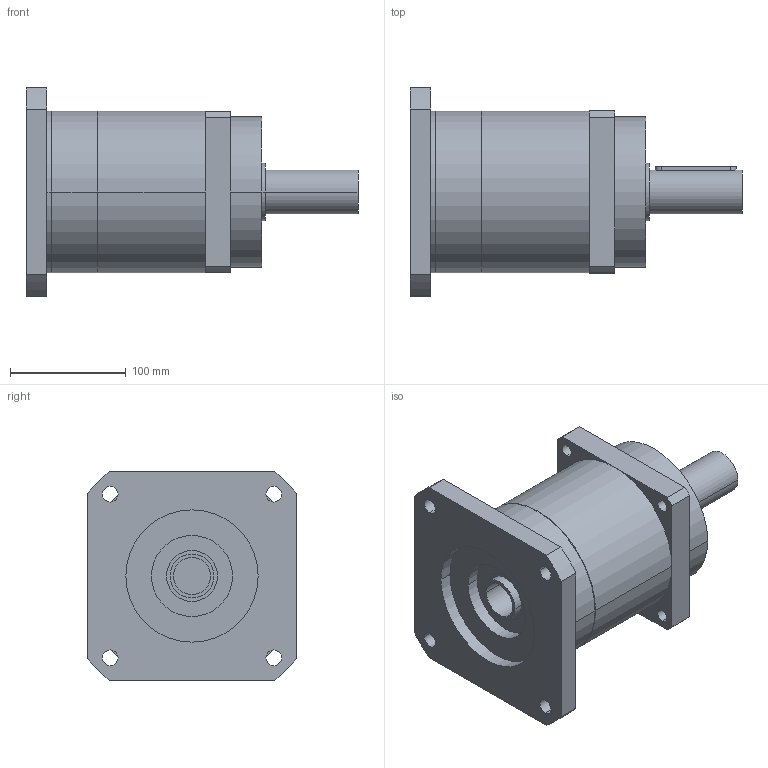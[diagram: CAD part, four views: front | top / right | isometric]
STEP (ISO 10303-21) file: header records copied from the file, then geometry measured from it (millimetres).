
FILE_DESCRIPTION(('CoCreate Modeling STEP Export'),'2;1');
FILE_NAME('GPR150_ig-3-4-5-7_38_B5_32_P09.stp','2014-08-19T16:43:00',(''),(''),'CoCreate Modeling STEP processor for AP214 (Solid Model)','CoCreate Modeling 16.00C 25-Feb-2009 (C) Parametric Technology GmbH','');
FILE_SCHEMA(('AUTOMOTIVE_DESIGN { 1 0 10303 214 1 1 1 1 }'));
Length unit declared in the file: millimetre
Products named in the file (2): GPR150_ig-3-4-5-7_38_B5_32_P09
Assembly tree (1 placements, depth 2):
  GPR150_ig-3-4-5-7_38_B5_32_P09
    GPR150_ig-3-4-5-7_38_B5_32_P09
Bounding box: 287 x 180 x 180 mm (x, y, z)
Volume: 3339557 mm3; surface area: 197962.8 mm2
Topology: 1 solids, 1 shells, 84 faces, 227 edges, 155 vertices
Faces by surface type: cylinder 50, plane 28, cone 6
Entity records: 2395 total; most frequent: ORIENTED_EDGE 450, CARTESIAN_POINT 442, DIRECTION 340, EDGE_CURVE 225, VERTEX_POINT 155, AXIS2_PLACEMENT_3D 125, EDGE_LOOP 112, VECTOR 90
